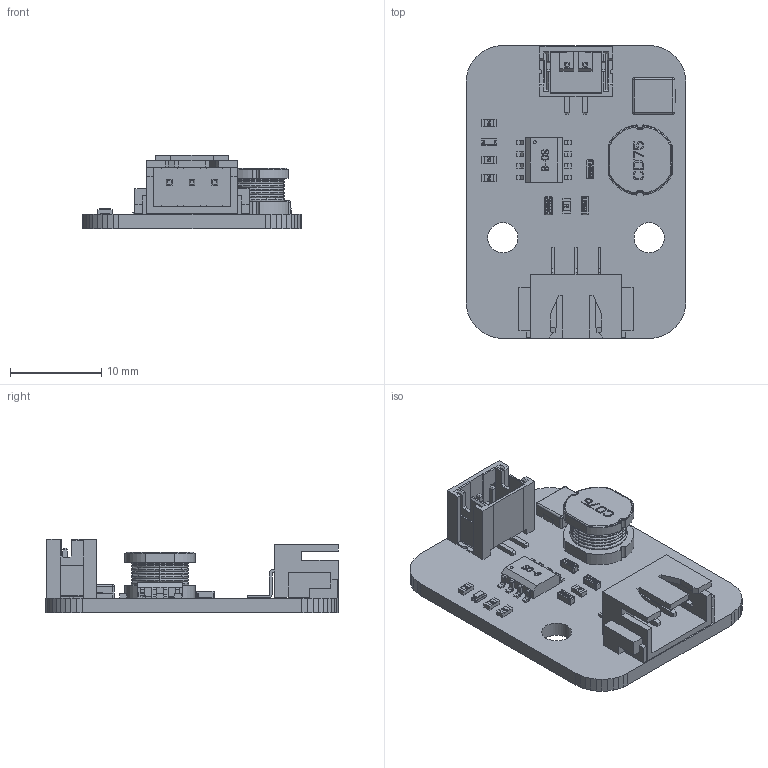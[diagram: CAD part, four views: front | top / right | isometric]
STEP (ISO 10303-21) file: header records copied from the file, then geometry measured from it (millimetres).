
FILE_DESCRIPTION(('Open CASCADE Model'),'2;1');
FILE_NAME('Open CASCADE Shape Model','2024-10-14T18:17:11',('Author'),( 'Open CASCADE'),'Open CASCADE STEP processor 6.5','Open CASCADE 6.5' ,'Unknown');
FILE_SCHEMA(('AUTOMOTIVE_DESIGN { 1 0 10303 214 1 1 1 1 }'));
Length unit declared in the file: millimetre
Products named in the file (23): PCB; Board; U1; SO-8; R4; 0603_R; R3; R2; L2; User_Library-cd75; L1; 0420_泂え萇覜; D1; LED0603(R); C3; User_Library-0603(1608M)_Cap; C2; P1; User_Library-DS1066-04-2MSV6; C1; R1; P2; 3pin-2.5
Assembly tree (27 placements, depth 3):
  PCB
    Board
    U1
      SO-8
    R4
      0603_R
    R3
      0603_R
    R2
      0603_R
    L2
      User_Library-cd75
    L1
      0420_泂え萇覜
    D1
      LED0603(R)
    C3
      User_Library-0603(1608M)_Cap
    C2
      User_Library-0603(1608M)_Cap
    P1
      User_Library-DS1066-04-2MSV6
    C1
      User_Library-0603(1608M)_Cap
    R1
      0603_R
    P2
      3pin-2.5
Bounding box: 24.02 x 32.02 x 8.09 mm (x, y, z)
Volume: 1542.5 mm3; surface area: 3466.3 mm2
Topology: 29 solids, 50 shells, 1345 faces, 3526 edges, 2268 vertices
Faces by surface type: plane 849, bspline 314, cylinder 147, extrusion 20, sphere 8, cone 7
Full cylindrical faces by diameter (mm): 3.3 x2
Entity records: 83743 total; most frequent: CARTESIAN_POINT 30741, DIRECTION 8137, VECTOR 5659, LINE 5654, ORIENTED_EDGE 5140, PCURVE 5140, DEFINITIONAL_REPRESENTATION 5140, EDGE_CURVE 2590
